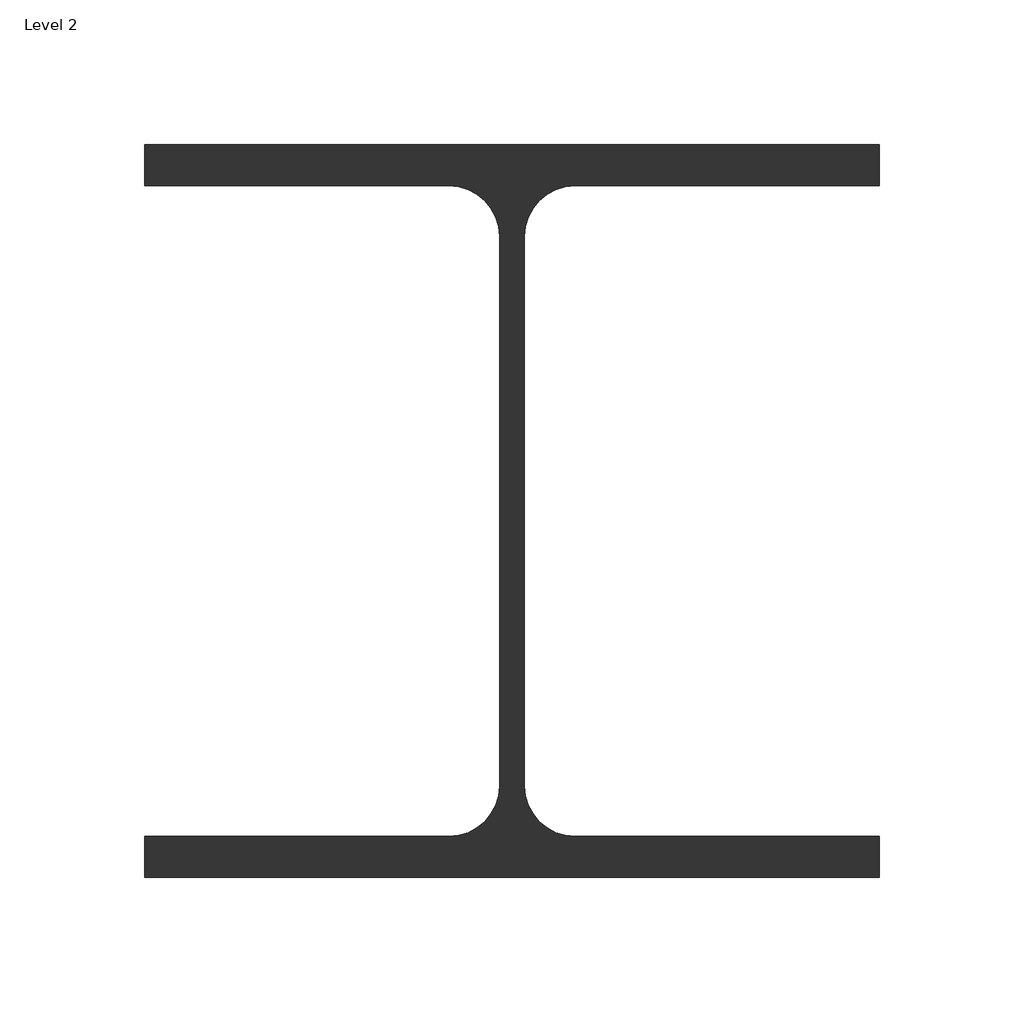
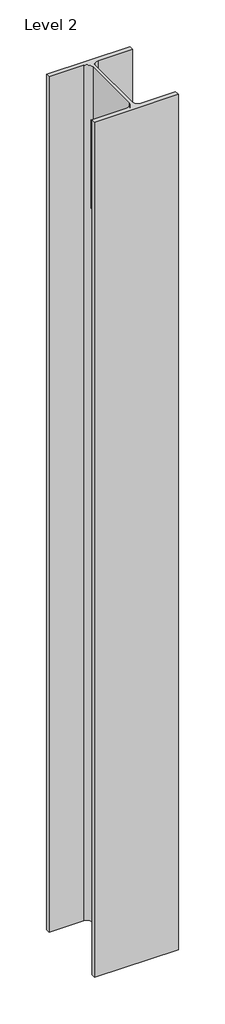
# One storey: 1 column.
"""IFC4 building model written with IfcOpenShell, lengths in millimetres."""

import ifcopenshell
import ifcopenshell.guid

model = None  # the IFC model being written
_history = None  # IfcOwnerHistory: only IFC2X3 demands one
_inside = {}  # id of a spatial element -> (the spatial element, [elements in it])
_under = {}  # id of a project, library or spatial element -> (it, [spatial elements below it])
_declared = {}  # id of a project -> (the project, [libraries it declares])
_typed = {}  # id of a type object -> (the type object, [elements of that type])
_made_of = {}  # id of a material, layer set ... -> (it, [elements and type objects made of it])


def new_model(schema):
    """Start an empty IFC model of exactly this schema.

    Asked for "IFC4X3", IfcOpenShell would pick the latest addendum, in which some entities
    have other attributes; the version numbers below select the first issue.
    IFC2X3 requires an IfcOwnerHistory on every rooted entity: one is made here for all.
    """
    global model, _history
    if schema == "IFC4X3":
        model = ifcopenshell.file(schema_version=(4, 3, 0, 0))
    else:
        model = ifcopenshell.file(schema=schema)
    _inside.clear()
    _under.clear()
    _declared.clear()
    _typed.clear()
    _made_of.clear()
    _history = None
    if model.schema == "IFC2X3":
        org = make("IfcOrganization", Name="unknown")
        user = make(
            "IfcPersonAndOrganization",
            ThePerson=make("IfcPerson", FamilyName="unknown"),
            TheOrganization=org,
        )
        app = make(
            "IfcApplication",
            ApplicationDeveloper=org,
            Version="unknown",
            ApplicationFullName="unknown",
            ApplicationIdentifier="unknown",
        )
        _history = make(
            "IfcOwnerHistory",
            OwningUser=user,
            OwningApplication=app,
            ChangeAction="ADDED",
            CreationDate=0,
        )
    return model


def make(cls, **values):
    """One entity of the class cls with the attributes given. An attribute that is None is left unset."""
    return model.create_entity(
        cls, **{name: value for name, value in values.items() if value is not None}
    )


def rooted(cls, **values):
    """An entity with a GlobalId (a new one), such as an element, a storey or a relation."""
    return make(cls, GlobalId=ifcopenshell.guid.new(), OwnerHistory=_history, **values)


def si_unit(unit_type, name, prefix=None):
    """IfcSIUnit, for example si_unit("LENGTHUNIT", "METRE", prefix="MILLI")."""
    return make("IfcSIUnit", UnitType=unit_type, Prefix=prefix, Name=name)


def assignment(units):
    """IfcUnitAssignment: the units of a project."""
    return None if units is None else make("IfcUnitAssignment", Units=units)


def point(xyz):
    """IfcCartesianPoint."""
    return None if xyz is None else make("IfcCartesianPoint", Coordinates=xyz)


def direction(xyz):
    """IfcDirection."""
    return None if xyz is None else make("IfcDirection", DirectionRatios=xyz)


def frame(location, z_axis=None, x_axis=None):
    """IfcAxis2Placement3D, a coordinate frame: its origin and axes. An axis left out is left unset."""
    return make(
        "IfcAxis2Placement3D",
        Location=point(location),
        Axis=direction(z_axis),
        RefDirection=direction(x_axis),
    )


def origin():
    """The frame at (0, 0, 0) with its axes left unset."""
    return frame((0.0, 0.0, 0.0))


def place(relative_to, where):
    """IfcLocalPlacement: puts the frame where relative to a parent placement (None: the world)."""
    return make(
        "IfcLocalPlacement", PlacementRelTo=relative_to, RelativePlacement=where
    )


def context(
    kind, dimensions, precision=None, world=None, true_north=None, identifier=None
):
    """IfcGeometricRepresentationContext, for example the 3D "Model" context."""
    return make(
        "IfcGeometricRepresentationContext",
        ContextIdentifier=identifier,
        ContextType=kind,
        CoordinateSpaceDimension=dimensions,
        Precision=precision,
        WorldCoordinateSystem=world,
        TrueNorth=true_north,
    )


def project(units=None, contexts=None):
    """IfcProject with its units and contexts."""
    return rooted(
        "IfcProject",
        Name="project",
        RepresentationContexts=contexts,
        UnitsInContext=assignment(units),
    )


def spatial(cls, under=None, at=None, **own):
    """A site, building, storey or space (cls), placed at a placement, below another one or the project."""
    s = rooted(cls, ObjectPlacement=at, **own)
    if under is not None:
        _under.setdefault(under.id(), (under, []))[1].append(s)
    return s


def polyline(points):
    """IfcPolyline through the points."""
    return make("IfcPolyline", Points=[point(p) for p in points])


def circle_curve(where, radius):
    """IfcCircle in the frame where."""
    return make("IfcCircle", Position=where, Radius=radius)


def ellipse_curve(where, semi_axis1, semi_axis2):
    """IfcEllipse in the frame where."""
    return make(
        "IfcEllipse", Position=where, SemiAxis1=semi_axis1, SemiAxis2=semi_axis2
    )


def shape(context_of_items, identifier, shape_type, items):
    """IfcShapeRepresentation: the items that make up one representation, for example the "Body"."""
    return make(
        "IfcShapeRepresentation",
        ContextOfItems=context_of_items,
        RepresentationIdentifier=identifier,
        RepresentationType=shape_type,
        Items=items,
    )


def made_of(thing, what):
    """Note that an element or type object is made of a material, layer set ...; save() writes the relation."""
    if what is not None:
        _made_of.setdefault(what.id(), (what, []))[1].append(thing)
    return thing


def element(
    cls,
    number,
    at=None,
    inside=None,
    cuts=None,
    type_object=None,
    material=None,
    context=None,
    identifier="Body",
    shape_type=None,
    held_by="IfcProductDefinitionShape",
    body=None,
    shapes=None,
    **own,
):
    """One element of the class cls, such as IfcWall. Its Tag is "e" and its number.

    at: its placement. inside: the storey or other place that contains it. cuts: it is an
    opening in that element (IfcRelVoidsElement). A single representation is given by context,
    identifier, shape_type and body (its items); several are given by shapes. held_by: the class
    of the entity that holds the representations. save() writes the other relations.
    """
    e = rooted(cls, Tag="e%d" % number, ObjectPlacement=at, **own)
    if body is not None:
        shapes = [shape(context, identifier, shape_type, body)]
    if shapes is not None:
        e.Representation = make(held_by, Representations=shapes)
    if inside is not None:
        _inside.setdefault(inside.id(), (inside, []))[1].append(e)
    if cuts is not None:
        rooted(
            "IfcRelVoidsElement", RelatingBuildingElement=cuts, RelatedOpeningElement=e
        )
    if type_object is not None:
        _typed.setdefault(type_object.id(), (type_object, []))[1].append(e)
    return made_of(e, material)


def aggregate(whole, parts):
    """IfcRelAggregates: a whole, such as a stair, and the parts it consists of."""
    return rooted("IfcRelAggregates", RelatingObject=whole, RelatedObjects=parts)


def save(model, path):
    """Write the relations noted so far, then the file.

    IfcRelAggregates (storeys below a building ...), IfcRelContainedInSpatialStructure (elements
    in a storey), IfcRelDefinesByType, IfcRelAssociatesMaterial and IfcRelDeclares: one each for
    every whole, place, type object, material and project.
    """
    for whole, parts in _under.values():
        aggregate(whole, parts)
    for where, things in _inside.values():
        rooted(
            "IfcRelContainedInSpatialStructure",
            RelatedElements=things,
            RelatingStructure=where,
        )
    for kind, things in _typed.values():
        rooted("IfcRelDefinesByType", RelatedObjects=things, RelatingType=kind)
    for what, things in _made_of.values():
        rooted("IfcRelAssociatesMaterial", RelatedObjects=things, RelatingMaterial=what)
    for by, libraries in _declared.values():
        rooted("IfcRelDeclares", RelatingContext=by, RelatedDefinitions=libraries)
    model.write(path)


def plane_surface(at):
    """IfcPlane: the flat surface through the origin of the frame at, square to its z axis."""
    return make("IfcPlane", Position=at)


def revolved_surface(curve, axis_point, axis_direction):
    """IfcSurfaceOfRevolution: the curve turned about the line through axis_point along axis_direction."""
    return make(
        "IfcSurfaceOfRevolution",
        SweptCurve=make("IfcArbitraryOpenProfileDef", ProfileType="CURVE", Curve=curve),
        AxisPosition=make("IfcAxis1Placement", Location=point(axis_point), Axis=direction(axis_direction)),
    )


def advanced_brep(points, edges, surfaces, faces):
    """IfcAdvancedBrep: a solid bounded by faces that lie on surfaces and meet in shared edges.

    An edge is (start, end): straight between two places in points (the first is 0);
    or (start, end, curve); or (start, end, curve, False) where it runs against its curve.
    A face is (place in surfaces, loops), or (place, loops, False) where it looks against
    its surface's normal. A loop lists edges by number (the first is 1), with a minus sign
    where the edge is run from its end to its start. The first loop is the outer one.
    """
    corners = [point(p) for p in points]
    vertices = [make("IfcVertexPoint", VertexGeometry=c) for c in corners]
    made = []
    for start, end, *more in edges:
        made.append(
            make(
                "IfcEdgeCurve",
                EdgeStart=vertices[start],
                EdgeEnd=vertices[end],
                EdgeGeometry=more[0] if more else make("IfcPolyline", Points=[corners[start], corners[end]]),
                SameSense=more[1] if len(more) > 1 else True,
            )
        )
    hull = []
    for where, loops, *sense in faces:
        bounds = []
        for j, loop in enumerate(loops):
            ring = [make("IfcOrientedEdge", EdgeElement=made[abs(k) - 1], Orientation=k > 0) for k in loop]
            bounds.append(
                make(
                    "IfcFaceOuterBound" if j == 0 else "IfcFaceBound",
                    Bound=make("IfcEdgeLoop", EdgeList=ring),
                    Orientation=True,
                )
            )
        hull.append(make("IfcAdvancedFace", Bounds=bounds, FaceSurface=surfaces[where], SameSense=sense[0] if sense else True))
    return make("IfcAdvancedBrep", Outer=make("IfcClosedShell", CfsFaces=hull))


model = new_model("IFC4")

# Units and contexts
model_context = context("Model", 3, world=origin())
ifc_project = project(units=[si_unit("LENGTHUNIT", "METRE", prefix="MILLI")], contexts=[model_context])

# Site, building, storey
site = spatial("IfcSite", under=ifc_project)
building = spatial("IfcBuilding", under=site)
storey = spatial("IfcBuildingStorey", under=building, Name="Level 2", Elevation=3048.0)

# Column
placement = place(None, origin())
element("IfcColumn", 1, ObjectType="W-Wide Flange-Column : W10X49", at=placement, inside=storey, context=model_context, shape_type="AdvancedBrep", body=[
    advanced_brep(
    [(-14101.1297008, 11398.5451179, 5791.2), (-14355.1297008, 11398.5451179, 5791.2), (-14355.1297008, 11384.3568366, 5791.2), (-14250.0074352, 11384.3568366, 5791.2), (-14232.4457164, 11366.7951179, 5791.2), (-14232.4457164, 11176.7912116, 5791.2), (-14250.0074352, 11159.2294929, 5791.2), (-14355.1297008, 11159.2294929, 5791.2), (-14355.1297008, 11145.0412116, 5791.2), (-14101.1297008, 11145.0412116, 5791.2), (-14101.1297008, 11159.2294929, 5791.2), (-14206.2519664, 11159.2294929, 5791.2), (-14223.8136852, 11176.7912116, 5791.2), (-14223.8136852, 11366.7951179, 5791.2), (-14206.2519664, 11384.3568366, 5791.2), (-14101.1297008, 11384.3568366, 5791.2), (-14101.1297008, 11398.5451179, 3048.0), (-14101.1297008, 11384.3568366, 3048.0), (-14206.2519664, 11384.3568366, 3048.0), (-14223.8136852, 11366.7951179, 3048.0), (-14223.8136852, 11176.7912116, 3048.0), (-14206.2519664, 11159.2294929, 3048.0), (-14101.1297008, 11159.2294929, 3048.0), (-14101.1297008, 11145.0412116, 3048.0), (-14355.1297008, 11145.0412116, 3048.0), (-14355.1297008, 11159.2294929, 3048.0), (-14250.0074352, 11159.2294929, 3048.0), (-14232.4457164, 11176.7912116, 3048.0), (-14232.4457164, 11366.7951179, 3048.0), (-14250.0074352, 11384.3568366, 3048.0), (-14355.1297008, 11384.3568366, 3048.0), (-14355.1297008, 11398.5451179, 3048.0), (-14232.4457164, 11366.7951179, 5334.5307862), (-14233.5860141, 11373.0201397, 5334.5307862), (-14233.5860141, 11373.0201397, 5617.910878), (-14232.4457164, 11366.7951179, 5618.2371176), (-14232.4457164, 11201.5701397, 5626.8961918), (-14232.4457164, 11201.5701397, 5364.2511194), (-14232.4457164, 11246.0201397, 5364.2511194), (-14232.4457164, 11246.0201397, 5243.6011194), (-14232.4457164, 11328.4570078, 5239.2807862), (-14232.4457164, 11328.4570078, 5334.5307862), (-14223.8136852, 11366.7951179, 5334.5307862), (-14223.8136852, 11328.4570078, 5334.5307862), (-14223.8136852, 11328.4570078, 5239.2807862), (-14223.8136852, 11246.0201397, 5243.6011194), (-14223.8136852, 11246.0201397, 5364.2511194), (-14223.8136852, 11201.5701397, 5364.2511194), (-14223.8136852, 11201.5701397, 5626.8961918), (-14223.8136852, 11366.7951179, 5618.2371176), (-14222.6733874, 11373.0201397, 5617.910878), (-14222.6733874, 11373.0201397, 5334.5307862)],
    [
        (0, 1),
        (1, 2),
        (2, 3),
        (3, 4, circle_curve(frame((-14250.0074352, 11366.7951179, 5791.2), z_axis=(0.0, 0.0, -1.0), x_axis=(1.0, 0.0, 0.0)), 17.5617188)),
        (4, 5),
        (5, 6, circle_curve(frame((-14250.0074352, 11176.7912116, 5791.2), z_axis=(0.0, 0.0, -1.0), x_axis=(1.0, 0.0, 0.0)), 17.5617188)),
        (6, 7),
        (7, 8),
        (8, 9),
        (9, 10),
        (10, 11),
        (11, 12, circle_curve(frame((-14206.2519664, 11176.7912116, 5791.2), z_axis=(0.0, 0.0, -1.0), x_axis=(1.0, 0.0, 0.0)), 17.5617188)),
        (12, 13),
        (13, 14, circle_curve(frame((-14206.2519664, 11366.7951179, 5791.2), z_axis=(0.0, 0.0, -1.0), x_axis=(1.0, 0.0, 0.0)), 17.5617188)),
        (14, 15),
        (15, 0),
        (16, 17),
        (17, 18),
        (18, 19, circle_curve(frame((-14206.2519664, 11366.7951179, 3048.0), z_axis=(0.0, 0.0, 1.0), x_axis=(1.0, 0.0, 0.0)), 17.5617188)),
        (19, 20),
        (20, 21, circle_curve(frame((-14206.2519664, 11176.7912116, 3048.0), z_axis=(0.0, 0.0, 1.0), x_axis=(1.0, 0.0, 0.0)), 17.5617188)),
        (21, 22),
        (22, 23),
        (23, 24),
        (24, 25),
        (25, 26),
        (26, 27, circle_curve(frame((-14250.0074352, 11176.7912116, 3048.0), z_axis=(0.0, 0.0, 1.0), x_axis=(1.0, 0.0, 0.0)), 17.5617188)),
        (27, 28),
        (28, 29, circle_curve(frame((-14250.0074352, 11366.7951179, 3048.0), z_axis=(0.0, 0.0, 1.0), x_axis=(1.0, 0.0, 0.0)), 17.5617188)),
        (29, 30),
        (30, 31),
        (31, 16),
        (0, 16),
        (31, 1),
        (30, 2),
        (29, 3),
        (28, 32),
        (32, 33, circle_curve(frame((-14250.0074352, 11366.7951179, 5334.5307862), z_axis=(0.0, 0.0, 1.0), x_axis=(1.0, 0.0, 0.0)), 17.5617188)),
        (33, 34),
        (34, 35, ellipse_curve(frame((-14250.0074352, 11366.7951179, 5618.2371176), z_axis=(0.0, -0.05233595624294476, -0.9986295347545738), x_axis=(0.0, 0.9986295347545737, -0.05233595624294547)), 17.5858195, 17.5617187)),
        (35, 4),
        (35, 36),
        (36, 37),
        (37, 38),
        (38, 39),
        (39, 40),
        (40, 41),
        (41, 32),
        (27, 5),
        (26, 6),
        (25, 7),
        (24, 8),
        (23, 9),
        (22, 10),
        (21, 11),
        (20, 12),
        (19, 42),
        (42, 43),
        (43, 44),
        (44, 45),
        (45, 46),
        (46, 47),
        (47, 48),
        (48, 49),
        (49, 13),
        (49, 50, ellipse_curve(frame((-14206.2519664, 11366.7951179, 5618.2371176), z_axis=(0.0, -0.05233595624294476, -0.9986295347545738), x_axis=(0.0, 0.9986295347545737, -0.05233595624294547)), 17.5858195, 17.5617187)),
        (50, 51),
        (51, 42, circle_curve(frame((-14206.2519664, 11366.7951179, 5334.5307862), z_axis=(0.0, 0.0, 1.0), x_axis=(1.0, 0.0, 0.0)), 17.5617188)),
        (18, 14),
        (17, 15),
        (34, 50),
        (48, 36),
        (47, 37),
        (46, 38),
        (45, 39),
        (44, 40),
        (43, 41),
        (51, 33),
    ],
    [
        plane_surface(frame((-14355.1297008, 11398.5451179, 5791.2), z_axis=(0.0, 0.0, 1.0), x_axis=(-1.0, 0.0, 0.0))),
        plane_surface(frame((-14355.1297008, 11398.5451179, 3048.0), z_axis=(0.0, 0.0, -1.0), x_axis=(1.0, 0.0, 0.0))),
        plane_surface(frame((-14101.1297008, 11398.5451179, 5791.2), z_axis=(0.0, 1.0, 0.0), x_axis=(0.0, 0.0, -1.0))),
        plane_surface(frame((-14355.1297008, 11398.5451179, 5791.2), z_axis=(-1.0, 0.0, 0.0), x_axis=(0.0, 0.0, -1.0))),
        plane_surface(frame((-14355.1297008, 11384.3568366, 5791.2), z_axis=(0.0, -1.0, 0.0), x_axis=(0.0, 0.0, -1.0))),
        revolved_surface(polyline([(-14232.445716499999, 11366.7951179, 3048.0), (-14232.445716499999, 11366.7951179, 5791.2)]), (-14250.0074352, 11366.7951179, 3048.0), (0.0, 0.0, -1.0)),
        plane_surface(frame((-14232.4457164, 11366.7951179, 5791.2), z_axis=(-1.0, 0.0, 0.0), x_axis=(0.0, 0.0, -1.0))),
        revolved_surface(polyline([(-14232.445716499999, 11176.7912116, 3048.0), (-14232.445716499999, 11176.7912116, 5791.2)]), (-14250.0074352, 11176.7912116, 3048.0), (0.0, 0.0, -1.0)),
        plane_surface(frame((-14250.0074352, 11159.2294929, 5791.2), z_axis=(0.0, 1.0, 0.0), x_axis=(0.0, 0.0, -1.0))),
        plane_surface(frame((-14355.1297008, 11159.2294929, 5791.2), z_axis=(-1.0, 0.0, 0.0), x_axis=(0.0, 0.0, -1.0))),
        plane_surface(frame((-14355.1297008, 11145.0412116, 5791.2), z_axis=(0.0, -1.0, 0.0), x_axis=(0.0, 0.0, -1.0))),
        plane_surface(frame((-14101.1297008, 11145.0412116, 5791.2), z_axis=(1.0, 0.0, 0.0), x_axis=(0.0, 0.0, -1.0))),
        plane_surface(frame((-14101.1297008, 11159.2294929, 5791.2), z_axis=(0.0, 1.0, 0.0), x_axis=(0.0, 0.0, -1.0))),
        revolved_surface(polyline([(-14188.690247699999, 11176.7912116, 3048.0), (-14188.690247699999, 11176.7912116, 5791.2)]), (-14206.2519664, 11176.7912116, 3048.0), (0.0, 0.0, -1.0)),
        plane_surface(frame((-14223.8136852, 11176.7912116, 5791.2), z_axis=(1.0, 0.0, 0.0), x_axis=(0.0, 0.0, -1.0))),
        revolved_surface(polyline([(-14188.690247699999, 11366.7951179, 3048.0), (-14188.690247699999, 11366.7951179, 5791.2)]), (-14206.2519664, 11366.7951179, 3048.0), (0.0, 0.0, -1.0)),
        plane_surface(frame((-14206.2519664, 11384.3568366, 5791.2), z_axis=(0.0, -1.0, 0.0), x_axis=(0.0, 0.0, -1.0))),
        plane_surface(frame((-14101.1297008, 11384.3568366, 5791.2), z_axis=(1.0, 0.0, 0.0), x_axis=(0.0, 0.0, -1.0))),
        plane_surface(frame((-11484.9297008, 11373.0201397, 5617.910878), z_axis=(0.0, -0.05233595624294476, -0.9986295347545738), x_axis=(-1.0, 0.0, 0.0))),
        plane_surface(frame((-11484.9297008, 11201.5701397, 5626.8961918), z_axis=(0.0, 1.0, 0.0), x_axis=(-1.0, 0.0, 0.0))),
        plane_surface(frame((-11484.9297008, 11201.5701397, 5364.2511194), z_axis=(0.0, 0.0, 1.0), x_axis=(-1.0, 0.0, 0.0))),
        plane_surface(frame((-11484.9297008, 11246.0201397, 5364.2511194), z_axis=(0.0, 1.0, 0.0), x_axis=(-1.0, 0.0, 0.0))),
        plane_surface(frame((-11484.9297008, 11246.0201397, 5243.6011194), z_axis=(0.0, 0.05233595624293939, 0.9986295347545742), x_axis=(-1.0, 0.0, 0.0))),
        plane_surface(frame((-11484.9297008, 11328.4570078, 5239.2807862), z_axis=(0.0, -1.0, 0.0), x_axis=(-1.0, 0.0, 0.0))),
        plane_surface(frame((-11484.9297008, 11328.4570078, 5334.5307862), z_axis=(0.0, 0.0, 1.0), x_axis=(-1.0, 0.0, 0.0))),
        plane_surface(frame((-11484.9297008, 11373.0201397, 5334.5307862), z_axis=(0.0, -1.0, 0.0), x_axis=(-1.0, 0.0, 0.0))),
    ],
    [
        (0, [[1, 2, 3, 4, 5, 6, 7, 8, 9, 10, 11, 12, 13, 14, 15, 16]]),
        (1, [[17, 18, 19, 20, 21, 22, 23, 24, 25, 26, 27, 28, 29, 30, 31, 32]]),
        (2, [[-1, 33, -32, 34]]),
        (3, [[-2, -34, -31, 35]]),
        (4, [[-3, -35, -30, 36]]),
        (5, [[-4, -36, -29, 37, 38, 39, 40, 41]]),
        (6, [[-5, -41, 42, 43, 44, 45, 46, 47, 48, -37, -28, 49]]),
        (7, [[-6, -49, -27, 50]]),
        (8, [[-7, -50, -26, 51]]),
        (9, [[-8, -51, -25, 52]]),
        (10, [[-9, -52, -24, 53]]),
        (11, [[-10, -53, -23, 54]]),
        (12, [[-11, -54, -22, 55]]),
        (13, [[-12, -55, -21, 56]]),
        (14, [[-13, -56, -20, 57, 58, 59, 60, 61, 62, 63, 64, 65]]),
        (15, [[-14, -65, 66, 67, 68, -57, -19, 69]]),
        (16, [[-15, -69, -18, 70]]),
        (17, [[-16, -70, -17, -33]]),
        (18, [[71, -66, -64, 72, -42, -40]]),
        (19, [[-72, -63, 73, -43]]),
        (20, [[-73, -62, 74, -44]]),
        (21, [[-74, -61, 75, -45]]),
        (22, [[-75, -60, 76, -46]]),
        (23, [[-76, -59, 77, -47]]),
        (24, [[-77, -58, -68, 78, -38, -48]]),
        (25, [[-71, -39, -78, -67]]),
    ],
),
])

save(model, "model.ifc")
